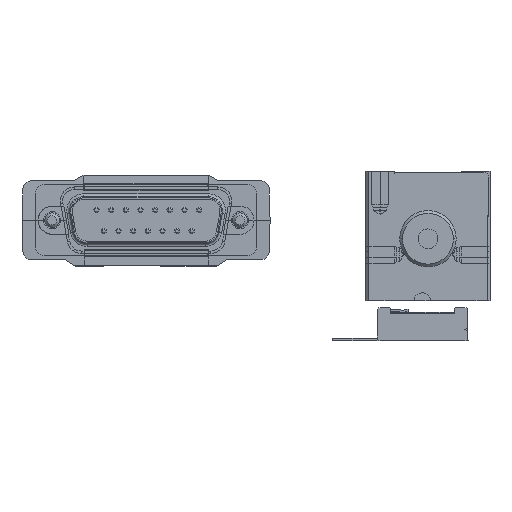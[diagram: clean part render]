
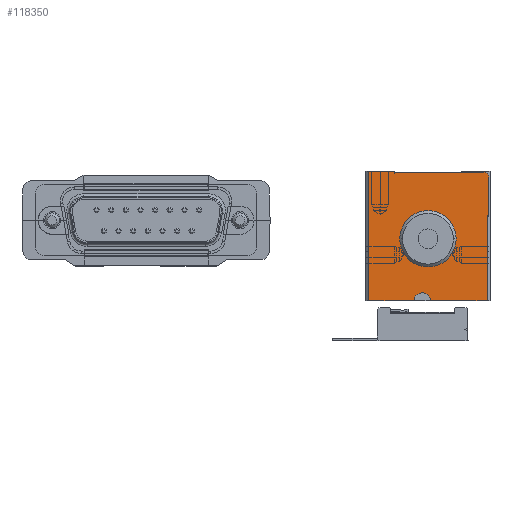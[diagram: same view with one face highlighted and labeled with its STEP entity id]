
A CAD part, front view. The second image highlights one B-rep face of the part: STEP entity #118350.
In plain terms, the highlighted planar face has unit normal (0, -1, 0) as drawn and (1, 0, 0) by its records, which use the part's own axes.
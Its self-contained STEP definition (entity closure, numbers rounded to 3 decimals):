
#109670=CARTESIAN_POINT('',(40.,22.,0.));
#109680=DIRECTION('',(0.,-1.,0.));
#109690=VECTOR('',#109680,1.);
#109700=LINE('',#109670,#109690);
#109710=CARTESIAN_POINT('',(40.,5.,0.));
#109720=VERTEX_POINT('',#109710);
#109730=CARTESIAN_POINT('',(40.,0.5,0.));
#109740=VERTEX_POINT('',#109730);
#109750=EDGE_CURVE('',#109720,#109740,#109700,.T.);
#112620=CARTESIAN_POINT('',(40.,0.5,-23.));
#112630=VERTEX_POINT('',#112620);
#112660=CARTESIAN_POINT('',(40.,0.,-23.));
#112670=DIRECTION('',(0.,1.,0.));
#112680=VECTOR('',#112670,1.);
#112690=LINE('',#112660,#112680);
#112700=CARTESIAN_POINT('',(40.,8.6,-23.));
#112710=VERTEX_POINT('',#112700);
#112720=EDGE_CURVE('',#112630,#112710,#112690,.T.);
#112940=CARTESIAN_POINT('',(40.,11.4,-23.));
#112950=VERTEX_POINT('',#112940);
#112980=CARTESIAN_POINT('',(40.,21.5,-23.));
#112990=VERTEX_POINT('',#112980);
#113000=EDGE_CURVE('',#112950,#112990,#112690,.T.);
#114920=CARTESIAN_POINT('',(40.,11.4,0.));
#114930=DIRECTION('',(0.,0.,1.));
#114940=VECTOR('',#114930,1.);
#114950=LINE('',#114920,#114940);
#114960=CARTESIAN_POINT('',(40.,11.4,-22.8));
#114970=VERTEX_POINT('',#114960);
#114980=EDGE_CURVE('',#112950,#114970,#114950,.T.);
#115650=CARTESIAN_POINT('',(40.,9.8,-22.8));
#115660=DIRECTION('',(-1.,0.,0.));
#115670=DIRECTION('',(0.,1.,0.));
#115680=AXIS2_PLACEMENT_3D('',#115650,#115660,#115670);
#115690=CIRCLE('',#115680,1.2);
#115700=CARTESIAN_POINT('',(40.,8.6,-22.8));
#115710=VERTEX_POINT('',#115700);
#115720=CARTESIAN_POINT('',(40.,9.8,-21.6));
#115730=VERTEX_POINT('',#115720);
#115740=EDGE_CURVE('',#115710,#115730,#115690,.T.);
#115970=CARTESIAN_POINT('',(40.,0.,-21.6));
#115980=DIRECTION('',(0.,-1.,0.));
#115990=VECTOR('',#115980,1.);
#116000=LINE('',#115970,#115990);
#116010=CARTESIAN_POINT('',(40.,10.2,-21.6));
#116020=VERTEX_POINT('',#116010);
#116030=EDGE_CURVE('',#116020,#115730,#116000,.T.);
#116230=CARTESIAN_POINT('',(40.,10.2,-22.8));
#116240=DIRECTION('',(-1.,0.,0.));
#116250=DIRECTION('',(0.,1.,0.));
#116260=AXIS2_PLACEMENT_3D('',#116230,#116240,#116250);
#116270=CIRCLE('',#116260,1.2);
#116280=EDGE_CURVE('',#116020,#114970,#116270,.T.);
#116410=CARTESIAN_POINT('',(40.,8.6,0.));
#116420=DIRECTION('',(0.,0.,-1.));
#116430=VECTOR('',#116420,1.);
#116440=LINE('',#116410,#116430);
#116450=EDGE_CURVE('',#115710,#112710,#116440,.T.);
#116560=CARTESIAN_POINT('',(40.,5.846,-7.9));
#116570=DIRECTION('',(0.,-1.,0.));
#116580=VECTOR('',#116570,1.);
#116590=LINE('',#116560,#116580);
#116600=CARTESIAN_POINT('',(40.,21.8,-7.9));
#116610=VERTEX_POINT('',#116600);
#116620=CARTESIAN_POINT('',(40.,21.5,-7.9));
#116630=VERTEX_POINT('',#116620);
#116640=EDGE_CURVE('',#116610,#116630,#116590,.T.);
#117370=CARTESIAN_POINT('',(40.,0.1,-0.8));
#117380=DIRECTION('',(1.,-0.,0.));
#117390=DIRECTION('',(0.,0.,-1.));
#117400=AXIS2_PLACEMENT_3D('',#117370,#117380,#117390);
#117410=PLANE('',#117400);
#117420=CARTESIAN_POINT('',(40.,20.9,-1.1));
#117430=DIRECTION('',(1.,0.,0.));
#117440=DIRECTION('',(0.,-1.,0.));
#117450=AXIS2_PLACEMENT_3D('',#117420,#117430,#117440);
#117460=CIRCLE('',#117450,0.9);
#117470=CARTESIAN_POINT('',(40.,21.8,-1.1));
#117480=VERTEX_POINT('',#117470);
#117490=CARTESIAN_POINT('',(40.,20.9,-0.2));
#117500=VERTEX_POINT('',#117490);
#117510=EDGE_CURVE('',#117480,#117500,#117460,.T.);
#117520=ORIENTED_EDGE('',*,*,#117510,.T.);
#117530=CARTESIAN_POINT('',(40.,21.8,-0.8));
#117540=DIRECTION('',(0.,0.,1.));
#117550=VECTOR('',#117540,1.);
#117560=LINE('',#117530,#117550);
#117570=EDGE_CURVE('',#116610,#117480,#117560,.T.);
#117580=ORIENTED_EDGE('',*,*,#117570,.T.);
#117590=ORIENTED_EDGE('',*,*,#116640,.F.);
#117600=CARTESIAN_POINT('',(40.,21.5,0.));
#117610=DIRECTION('',(0.,0.,1.));
#117620=VECTOR('',#117610,1.);
#117630=LINE('',#117600,#117620);
#117640=CARTESIAN_POINT('',(40.,21.5,-8.));
#117650=VERTEX_POINT('',#117640);
#117660=EDGE_CURVE('',#117650,#116630,#117630,.T.);
#117670=ORIENTED_EDGE('',*,*,#117660,.T.);
#117680=CARTESIAN_POINT('',(40.,21.5,-15.5));
#117690=DIRECTION('',(0.,0.,-1.));
#117700=VECTOR('',#117690,1.);
#117710=LINE('',#117680,#117700);
#117720=EDGE_CURVE('',#117650,#112990,#117710,.T.);
#117730=ORIENTED_EDGE('',*,*,#117720,.F.);
#117740=ORIENTED_EDGE('',*,*,#113000,.T.);
#117750=ORIENTED_EDGE('',*,*,#114980,.F.);
#117760=ORIENTED_EDGE('',*,*,#116280,.T.);
#117770=ORIENTED_EDGE('',*,*,#116030,.F.);
#117780=ORIENTED_EDGE('',*,*,#115740,.T.);
#117790=ORIENTED_EDGE('',*,*,#116450,.F.);
#117800=ORIENTED_EDGE('',*,*,#112720,.T.);
#117810=CARTESIAN_POINT('',(40.,0.5,-11.5));
#117820=DIRECTION('',(0.,0.,-1.));
#117830=VECTOR('',#117820,1.);
#117840=LINE('',#117810,#117830);
#117850=EDGE_CURVE('',#109740,#112630,#117840,.T.);
#117860=ORIENTED_EDGE('',*,*,#117850,.T.);
#117870=ORIENTED_EDGE('',*,*,#109750,.T.);
#117880=CARTESIAN_POINT('',(40.,5.,0.));
#117890=DIRECTION('',(0.,0.,-1.));
#117900=VECTOR('',#117890,1.);
#117910=LINE('',#117880,#117900);
#117920=CARTESIAN_POINT('',(40.,5.,-0.5));
#117930=VERTEX_POINT('',#117920);
#117940=EDGE_CURVE('',#109720,#117930,#117910,.T.);
#117950=ORIENTED_EDGE('',*,*,#117940,.F.);
#117960=CARTESIAN_POINT('',(40.,0.,-0.5));
#117970=DIRECTION('',(0.,-1.,0.));
#117980=VECTOR('',#117970,1.);
#117990=LINE('',#117960,#117980);
#118000=CARTESIAN_POINT('',(40.,5.05,-0.5));
#118010=VERTEX_POINT('',#118000);
#118020=EDGE_CURVE('',#118010,#117930,#117990,.T.);
#118030=ORIENTED_EDGE('',*,*,#118020,.T.);
#118040=CARTESIAN_POINT('',(40.,5.05,-0.8));
#118050=DIRECTION('',(0.,0.,1.));
#118060=VECTOR('',#118050,1.);
#118070=LINE('',#118040,#118060);
#118080=CARTESIAN_POINT('',(40.,5.05,-0.2));
#118090=VERTEX_POINT('',#118080);
#118100=EDGE_CURVE('',#118010,#118090,#118070,.T.);
#118110=ORIENTED_EDGE('',*,*,#118100,.F.);
#118120=CARTESIAN_POINT('',(40.,5.646,-0.2));
#118130=DIRECTION('',(0.,1.,0.));
#118140=VECTOR('',#118130,1.);
#118150=LINE('',#118120,#118140);
#118160=EDGE_CURVE('',#118090,#117500,#118150,.T.);
#118170=ORIENTED_EDGE('',*,*,#118160,.F.);
#118180=EDGE_LOOP('',(#118170,#118110,#118030,#117950,#117870,#117860,
#117800,#117790,#117780,#117770,#117760,#117750,#117740,#117730,#117670,
#117590,#117580,#117520));
#118190=FACE_OUTER_BOUND('',#118180,.T.);
#118200=CARTESIAN_POINT('',(40.,11.,-12.));
#118210=DIRECTION('',(1.,0.,0.));
#118220=DIRECTION('',(0.,1.,0.));
#118230=AXIS2_PLACEMENT_3D('',#118200,#118210,#118220);
#118240=CIRCLE('',#118230,5.);
#118250=CARTESIAN_POINT('',(40.,16.,-12.));
#118260=VERTEX_POINT('',#118250);
#118270=CARTESIAN_POINT('',(40.,6.,-12.));
#118280=VERTEX_POINT('',#118270);
#118290=EDGE_CURVE('',#118260,#118280,#118240,.T.);
#118300=ORIENTED_EDGE('',*,*,#118290,.F.);
#118310=EDGE_CURVE('',#118280,#118260,#118240,.T.);
#118320=ORIENTED_EDGE('',*,*,#118310,.F.);
#118330=EDGE_LOOP('',(#118320,#118300));
#118340=FACE_BOUND('',#118330,.T.);
#118350=ADVANCED_FACE('',(#118190,#118340),#117410,.T.);
